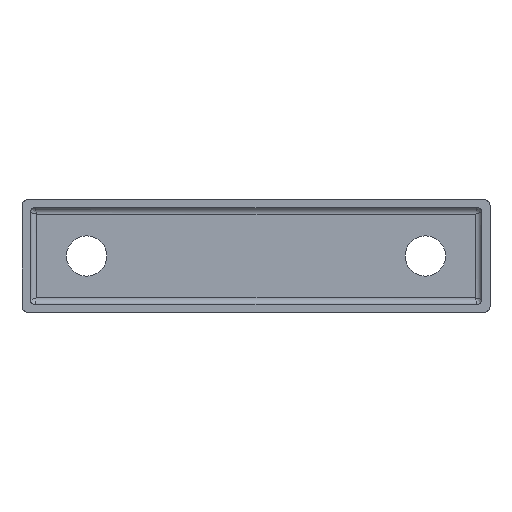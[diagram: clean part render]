
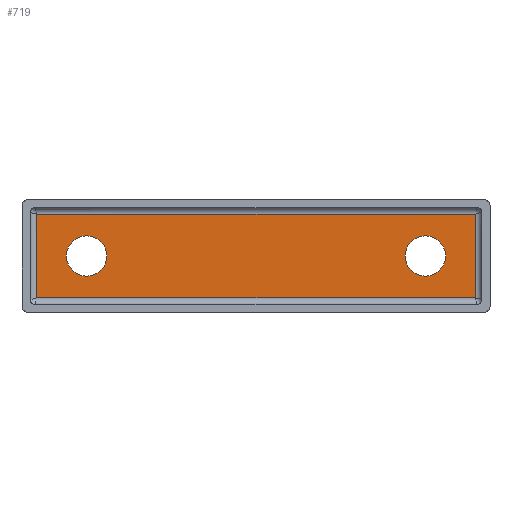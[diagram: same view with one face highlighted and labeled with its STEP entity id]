
A CAD part, top view. The second image highlights one B-rep face of the part: STEP entity #719.
In plain terms, the highlighted planar face has unit normal (0, 0, 1).
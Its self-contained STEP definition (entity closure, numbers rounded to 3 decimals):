
#66=FACE_BOUND('',#174,.T.);
#67=FACE_BOUND('',#175,.T.);
#98=CIRCLE('',#779,6.25);
#99=CIRCLE('',#780,6.25);
#100=CIRCLE('',#781,6.25);
#101=CIRCLE('',#782,6.25);
#127=FACE_OUTER_BOUND('',#173,.T.);
#173=EDGE_LOOP('',(#563,#564,#565,#566));
#174=EDGE_LOOP('',(#567,#568));
#175=EDGE_LOOP('',(#569,#570));
#233=LINE('',#1128,#283);
#234=LINE('',#1180,#284);
#235=LINE('',#1232,#285);
#236=LINE('',#1283,#286);
#283=VECTOR('',#906,135.999);
#284=VECTOR('',#911,25.999);
#285=VECTOR('',#916,135.999);
#286=VECTOR('',#921,25.999);
#333=VERTEX_POINT('',#1107);
#334=VERTEX_POINT('',#1109);
#335=VERTEX_POINT('',#1161);
#336=VERTEX_POINT('',#1213);
#337=VERTEX_POINT('',#1315);
#338=VERTEX_POINT('',#1316);
#339=VERTEX_POINT('',#1319);
#340=VERTEX_POINT('',#1320);
#411=EDGE_CURVE('',#334,#333,#233,.F.);
#414=EDGE_CURVE('',#335,#334,#234,.F.);
#417=EDGE_CURVE('',#336,#335,#235,.F.);
#420=EDGE_CURVE('',#333,#336,#236,.F.);
#421=EDGE_CURVE('',#337,#338,#98,.T.);
#422=EDGE_CURVE('',#338,#337,#99,.T.);
#423=EDGE_CURVE('',#339,#340,#100,.T.);
#424=EDGE_CURVE('',#340,#339,#101,.T.);
#563=ORIENTED_EDGE('',*,*,#411,.F.);
#564=ORIENTED_EDGE('',*,*,#414,.F.);
#565=ORIENTED_EDGE('',*,*,#417,.F.);
#566=ORIENTED_EDGE('',*,*,#420,.F.);
#567=ORIENTED_EDGE('',*,*,#421,.T.);
#568=ORIENTED_EDGE('',*,*,#422,.T.);
#569=ORIENTED_EDGE('',*,*,#423,.T.);
#570=ORIENTED_EDGE('',*,*,#424,.T.);
#692=PLANE('',#778);
#719=ADVANCED_FACE('',(#127,#66,#67),#692,.F.);
#778=AXIS2_PLACEMENT_3D('',#1314,#922,#923);
#779=AXIS2_PLACEMENT_3D('',#1317,#924,#925);
#780=AXIS2_PLACEMENT_3D('',#1318,#926,#927);
#781=AXIS2_PLACEMENT_3D('',#1321,#928,#929);
#782=AXIS2_PLACEMENT_3D('',#1322,#930,#931);
#906=DIRECTION('',(-1.,0.,0.));
#911=DIRECTION('',(0.,-1.,0.));
#916=DIRECTION('',(1.,0.,0.));
#921=DIRECTION('',(0.,1.,0.));
#922=DIRECTION('center_axis',(0.,0.,-1.));
#923=DIRECTION('ref_axis',(-1.,0.,0.));
#924=DIRECTION('center_axis',(0.,0.,-1.));
#925=DIRECTION('ref_axis',(-1.,0.,0.));
#926=DIRECTION('center_axis',(0.,0.,-1.));
#927=DIRECTION('ref_axis',(-1.,0.,0.));
#928=DIRECTION('center_axis',(0.,0.,-1.));
#929=DIRECTION('ref_axis',(-1.,0.,0.));
#930=DIRECTION('center_axis',(0.,0.,-1.));
#931=DIRECTION('ref_axis',(-1.,0.,0.));
#1107=CARTESIAN_POINT('',(140.499,30.499,0.5));
#1109=CARTESIAN_POINT('',(4.501,30.499,0.5));
#1128=CARTESIAN_POINT('',(140.499,30.499,0.5));
#1161=CARTESIAN_POINT('',(4.501,4.501,0.5));
#1180=CARTESIAN_POINT('',(4.501,30.499,0.5));
#1213=CARTESIAN_POINT('',(140.499,4.501,0.5));
#1232=CARTESIAN_POINT('',(4.501,4.501,0.5));
#1283=CARTESIAN_POINT('',(140.499,4.501,0.5));
#1314=CARTESIAN_POINT('Origin',(72.5,17.5,0.5));
#1315=CARTESIAN_POINT('',(118.75,17.5,0.5));
#1316=CARTESIAN_POINT('',(131.25,17.5,0.5));
#1317=CARTESIAN_POINT('Origin',(125.,17.5,0.5));
#1318=CARTESIAN_POINT('Origin',(125.,17.5,0.5));
#1319=CARTESIAN_POINT('',(13.75,17.5,0.5));
#1320=CARTESIAN_POINT('',(26.25,17.5,0.5));
#1321=CARTESIAN_POINT('Origin',(20.,17.5,0.5));
#1322=CARTESIAN_POINT('Origin',(20.,17.5,0.5));
